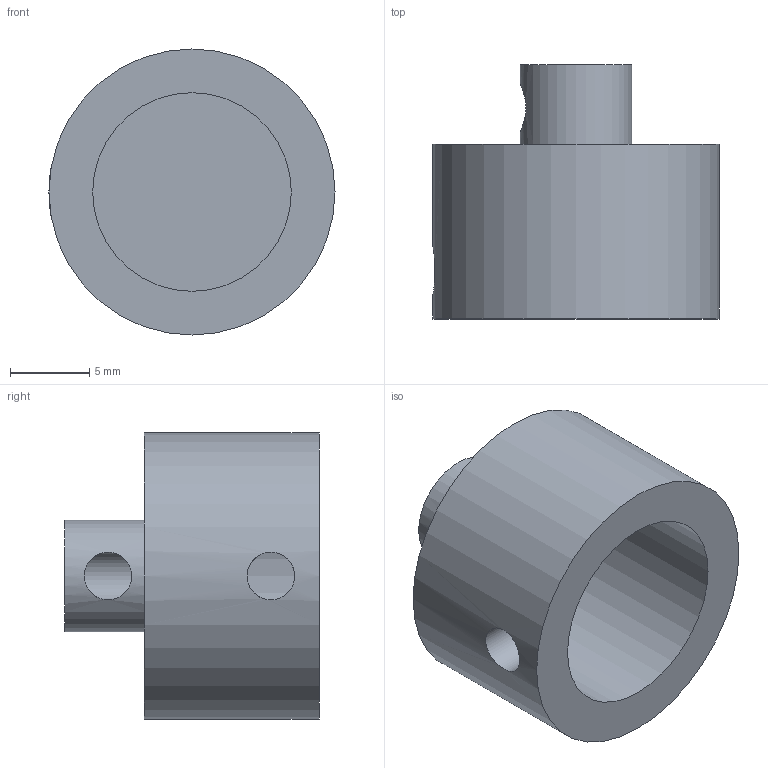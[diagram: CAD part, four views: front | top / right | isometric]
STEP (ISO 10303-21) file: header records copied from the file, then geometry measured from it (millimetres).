
FILE_DESCRIPTION(/* description */ (''),/* implementation_level */ '2;1');
FILE_NAME(/* name */ '',/* time_stamp */ '2025-10-06T16:28:18+08:00',/* author */ (''),/* organization */ (''),/* preprocessor_version */ 'ST-DEVELOPER v20.1',/* originating_system */ 'Autodesk Translation Framework v14.17.0.0',/* authorisation */ '');
FILE_SCHEMA (('AUTOMOTIVE_DESIGN { 1 0 10303 214 3 1 1 }'));
Length unit declared in the file: millimetre
Products named in the file (1): 旋转机构
Bounding box: 18 x 16 x 18 mm (x, y, z)
Volume: 1690.3 mm3; surface area: 1700.9 mm2
Topology: 1 solids, 1 shells, 11 faces, 22 edges, 16 vertices
Faces by surface type: cylinder 6, plane 5
Full cylindrical faces by diameter (mm): 3 x2, 3.2 x1, 7 x1, 12.5 x1, 18 x1
Entity records: 482 total; most frequent: CARTESIAN_POINT 204, DIRECTION 46, ORIENTED_EDGE 44, EDGE_CURVE 22, AXIS2_PLACEMENT_3D 20, EDGE_LOOP 18, VERTEX_POINT 16, FACE_OUTER_BOUND 11
